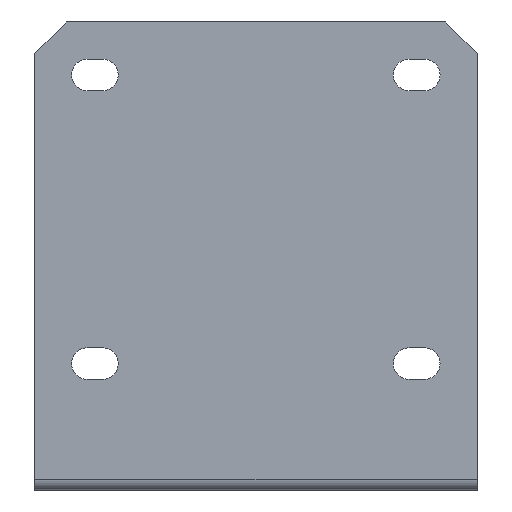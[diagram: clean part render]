
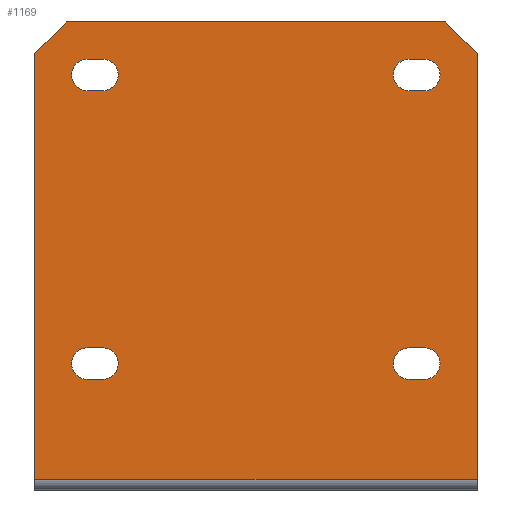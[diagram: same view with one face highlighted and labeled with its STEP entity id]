
A CAD part, left-side view. The second image highlights one B-rep face of the part: STEP entity #1169.
In plain terms, the highlighted planar face has unit normal (-1, 0, 0).
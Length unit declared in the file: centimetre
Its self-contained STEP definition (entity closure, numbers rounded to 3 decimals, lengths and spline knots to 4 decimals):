
#127=CIRCLE('',#1197,0.15);
#136=CIRCLE('',#1213,0.15);
#139=CIRCLE('',#1222,0.15);
#142=CIRCLE('',#1231,0.15);
#172=CIRCLE('',#1283,0.15);
#173=CIRCLE('',#1284,0.15);
#174=CIRCLE('',#1285,0.15);
#175=CIRCLE('',#1286,0.15);
#201=VERTEX_POINT('',#1630);
#202=VERTEX_POINT('',#1632);
#203=VERTEX_POINT('',#1636);
#228=VERTEX_POINT('',#1697);
#229=VERTEX_POINT('',#1699);
#230=VERTEX_POINT('',#1703);
#235=VERTEX_POINT('',#1723);
#236=VERTEX_POINT('',#1725);
#237=VERTEX_POINT('',#1729);
#242=VERTEX_POINT('',#1749);
#243=VERTEX_POINT('',#1751);
#244=VERTEX_POINT('',#1755);
#278=VERTEX_POINT('',#1845);
#279=VERTEX_POINT('',#1847);
#280=VERTEX_POINT('',#1851);
#281=VERTEX_POINT('',#1855);
#282=VERTEX_POINT('',#1858);
#283=VERTEX_POINT('',#1861);
#284=VERTEX_POINT('',#1864);
#285=VERTEX_POINT('',#1867);
#286=VERTEX_POINT('',#1869);
#287=VERTEX_POINT('',#1871);
#304=VECTOR('',#1336,1.);
#328=VECTOR('',#1388,1.);
#338=VECTOR('',#1413,1.);
#348=VECTOR('',#1438,1.);
#357=VECTOR('',#1542,1.);
#358=VECTOR('',#1544,1.);
#360=VECTOR('',#1549,1.);
#361=VECTOR('',#1552,1.);
#362=VECTOR('',#1555,1.);
#363=VECTOR('',#1558,1.);
#364=VECTOR('',#1559,1.);
#365=VECTOR('',#1560,1.);
#366=VECTOR('',#1561,1.);
#367=VECTOR('',#1562,1.);
#395=LINE('',#1637,#304);
#419=LINE('',#1704,#328);
#429=LINE('',#1730,#338);
#439=LINE('',#1756,#348);
#448=LINE('',#1848,#357);
#449=LINE('',#1850,#358);
#451=LINE('',#1856,#360);
#452=LINE('',#1859,#361);
#453=LINE('',#1862,#362);
#454=LINE('',#1865,#363);
#455=LINE('',#1866,#364);
#456=LINE('',#1868,#365);
#457=LINE('',#1870,#366);
#458=LINE('',#1872,#367);
#488=EDGE_CURVE('',#202,#201,#127,.T.);
#491=EDGE_CURVE('',#201,#203,#395,.T.);
#521=EDGE_CURVE('',#229,#228,#136,.T.);
#524=EDGE_CURVE('',#228,#230,#419,.T.);
#534=EDGE_CURVE('',#236,#235,#139,.T.);
#537=EDGE_CURVE('',#235,#237,#429,.T.);
#547=EDGE_CURVE('',#243,#242,#142,.T.);
#550=EDGE_CURVE('',#242,#244,#439,.T.);
#588=EDGE_CURVE('',#279,#278,#448,.T.);
#589=EDGE_CURVE('',#278,#280,#449,.T.);
#591=EDGE_CURVE('',#244,#281,#172,.T.);
#592=EDGE_CURVE('',#281,#243,#451,.T.);
#593=EDGE_CURVE('',#230,#282,#173,.T.);
#594=EDGE_CURVE('',#282,#229,#452,.T.);
#595=EDGE_CURVE('',#203,#283,#174,.T.);
#596=EDGE_CURVE('',#283,#202,#453,.T.);
#597=EDGE_CURVE('',#237,#284,#175,.T.);
#598=EDGE_CURVE('',#284,#236,#454,.T.);
#599=EDGE_CURVE('',#279,#285,#455,.T.);
#600=EDGE_CURVE('',#286,#285,#456,.T.);
#601=EDGE_CURVE('',#286,#287,#457,.T.);
#602=EDGE_CURVE('',#280,#287,#458,.T.);
#802=ORIENTED_EDGE('',*,*,#591,.T.);
#803=ORIENTED_EDGE('',*,*,#592,.T.);
#804=ORIENTED_EDGE('',*,*,#547,.T.);
#805=ORIENTED_EDGE('',*,*,#550,.T.);
#806=ORIENTED_EDGE('',*,*,#593,.T.);
#807=ORIENTED_EDGE('',*,*,#594,.T.);
#808=ORIENTED_EDGE('',*,*,#521,.T.);
#809=ORIENTED_EDGE('',*,*,#524,.T.);
#810=ORIENTED_EDGE('',*,*,#595,.T.);
#811=ORIENTED_EDGE('',*,*,#596,.T.);
#812=ORIENTED_EDGE('',*,*,#488,.T.);
#813=ORIENTED_EDGE('',*,*,#491,.T.);
#814=ORIENTED_EDGE('',*,*,#597,.T.);
#815=ORIENTED_EDGE('',*,*,#598,.T.);
#816=ORIENTED_EDGE('',*,*,#534,.T.);
#817=ORIENTED_EDGE('',*,*,#537,.T.);
#818=ORIENTED_EDGE('',*,*,#588,.F.);
#819=ORIENTED_EDGE('',*,*,#599,.T.);
#820=ORIENTED_EDGE('',*,*,#600,.F.);
#821=ORIENTED_EDGE('',*,*,#601,.T.);
#822=ORIENTED_EDGE('',*,*,#602,.F.);
#823=ORIENTED_EDGE('',*,*,#589,.F.);
#984=EDGE_LOOP('',(#802,#803,#804,#805));
#985=EDGE_LOOP('',(#806,#807,#808,#809));
#986=EDGE_LOOP('',(#810,#811,#812,#813));
#987=EDGE_LOOP('',(#814,#815,#816,#817));
#988=EDGE_LOOP('',(#818,#819,#820,#821,#822,#823));
#1091=FACE_BOUND('',#984,.T.);
#1092=FACE_BOUND('',#985,.T.);
#1093=FACE_BOUND('',#986,.T.);
#1094=FACE_BOUND('',#987,.T.);
#1095=FACE_BOUND('',#988,.T.);
#1169=ADVANCED_FACE('',(#1091,#1092,#1093,#1094,#1095),#1928,.T.);
#1197=AXIS2_PLACEMENT_3D('',#1631,#1331,#1332);
#1213=AXIS2_PLACEMENT_3D('',#1698,#1383,#1384);
#1222=AXIS2_PLACEMENT_3D('',#1724,#1408,#1409);
#1231=AXIS2_PLACEMENT_3D('',#1750,#1433,#1434);
#1282=AXIS2_PLACEMENT_3D('',#1853,#1546,$);
#1283=AXIS2_PLACEMENT_3D('',#1854,#1547,#1548);
#1284=AXIS2_PLACEMENT_3D('',#1857,#1550,#1551);
#1285=AXIS2_PLACEMENT_3D('',#1860,#1553,#1554);
#1286=AXIS2_PLACEMENT_3D('',#1863,#1556,#1557);
#1331=DIRECTION('',(1.,0.,0.));
#1332=DIRECTION('',(0.,0.,0.15));
#1336=DIRECTION('',(0.,1.,0.));
#1383=DIRECTION('',(1.,0.,0.));
#1384=DIRECTION('',(0.,0.,0.15));
#1388=DIRECTION('',(0.,1.,0.));
#1408=DIRECTION('',(1.,0.,0.));
#1409=DIRECTION('',(0.,0.,0.15));
#1413=DIRECTION('',(0.,1.,0.));
#1433=DIRECTION('',(1.,0.,0.));
#1434=DIRECTION('',(0.,0.,0.15));
#1438=DIRECTION('',(0.,1.,0.));
#1542=DIRECTION('',(0.,1.,0.));
#1544=DIRECTION('',(0.,0.,1.));
#1546=DIRECTION('',(-1.,0.,0.));
#1547=DIRECTION('',(1.,0.,0.));
#1548=DIRECTION('',(0.,0.,0.15));
#1549=DIRECTION('',(0.,-1.,0.));
#1550=DIRECTION('',(1.,0.,0.));
#1551=DIRECTION('',(0.,0.,0.15));
#1552=DIRECTION('',(0.,-1.,0.));
#1553=DIRECTION('',(1.,0.,0.));
#1554=DIRECTION('',(0.,0.,0.15));
#1555=DIRECTION('',(0.,-1.,0.));
#1556=DIRECTION('',(1.,0.,0.));
#1557=DIRECTION('',(0.,0.,0.15));
#1558=DIRECTION('',(0.,-1.,0.));
#1559=DIRECTION('',(0.,0.,1.));
#1560=DIRECTION('',(0.,-0.707,-0.707));
#1561=DIRECTION('',(0.,1.,0.));
#1562=DIRECTION('',(0.,-0.707,0.707));
#1630=CARTESIAN_POINT('',(0.,0.5028,1.05));
#1631=CARTESIAN_POINT('',(0.,0.5028,1.2));
#1632=CARTESIAN_POINT('',(0.,0.5028,1.35));
#1636=CARTESIAN_POINT('',(0.,0.6467,1.05));
#1637=CARTESIAN_POINT('',(0.,1.3374,1.05));
#1697=CARTESIAN_POINT('',(0.,0.5028,3.7912));
#1698=CARTESIAN_POINT('',(0.,0.5028,3.9412));
#1699=CARTESIAN_POINT('',(0.,0.5028,4.0912));
#1703=CARTESIAN_POINT('',(0.,0.6467,3.7912));
#1704=CARTESIAN_POINT('',(0.,1.3374,3.7912));
#1723=CARTESIAN_POINT('',(0.,3.559,1.05));
#1724=CARTESIAN_POINT('',(0.,3.559,1.2));
#1725=CARTESIAN_POINT('',(0.,3.559,1.35));
#1729=CARTESIAN_POINT('',(0.,3.7029,1.05));
#1730=CARTESIAN_POINT('',(0.,2.8655,1.05));
#1749=CARTESIAN_POINT('',(0.,3.559,3.7912));
#1750=CARTESIAN_POINT('',(0.,3.559,3.9412));
#1751=CARTESIAN_POINT('',(0.,3.559,4.0912));
#1755=CARTESIAN_POINT('',(0.,3.7029,3.7912));
#1756=CARTESIAN_POINT('',(0.,2.8655,3.7912));
#1845=CARTESIAN_POINT('',(0.,4.2015,0.1));
#1847=CARTESIAN_POINT('',(0.,0.,0.1));
#1848=CARTESIAN_POINT('',(0.,2.1,0.1));
#1850=CARTESIAN_POINT('',(0.,4.2015,0.));
#1851=CARTESIAN_POINT('',(0.,4.2015,4.144));
#1853=CARTESIAN_POINT('',(0.,2.1,0.));
#1854=CARTESIAN_POINT('',(0.,3.7029,3.9412));
#1855=CARTESIAN_POINT('',(0.,3.7029,4.0912));
#1856=CARTESIAN_POINT('',(0.,2.8655,4.0912));
#1857=CARTESIAN_POINT('',(0.,0.6467,3.9412));
#1858=CARTESIAN_POINT('',(0.,0.6467,4.0912));
#1859=CARTESIAN_POINT('',(0.,1.3374,4.0912));
#1860=CARTESIAN_POINT('',(0.,0.6467,1.2));
#1861=CARTESIAN_POINT('',(0.,0.6467,1.35));
#1862=CARTESIAN_POINT('',(0.,1.3374,1.35));
#1863=CARTESIAN_POINT('',(0.,3.7029,1.2));
#1864=CARTESIAN_POINT('',(0.,3.7029,1.35));
#1865=CARTESIAN_POINT('',(0.,2.8655,1.35));
#1866=CARTESIAN_POINT('',(0.,0.,0.));
#1867=CARTESIAN_POINT('',(0.,0.,4.144));
#1868=CARTESIAN_POINT('',(0.,-0.436,3.708));
#1869=CARTESIAN_POINT('',(0.,0.3,4.444));
#1870=CARTESIAN_POINT('',(0.,0.,4.444));
#1871=CARTESIAN_POINT('',(0.,3.9015,4.444));
#1872=CARTESIAN_POINT('',(0.,4.6371,3.7084));
#1928=PLANE('',#1282);
